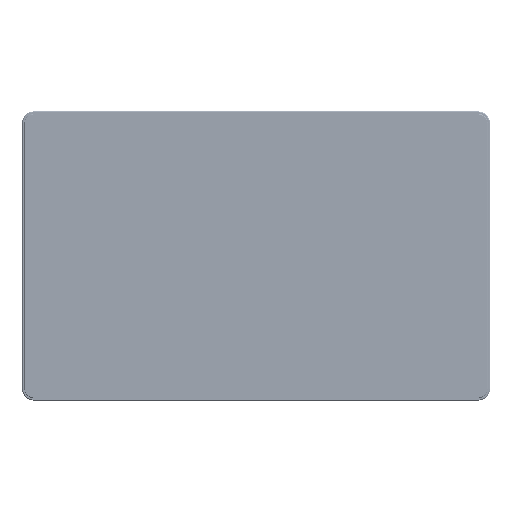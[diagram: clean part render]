
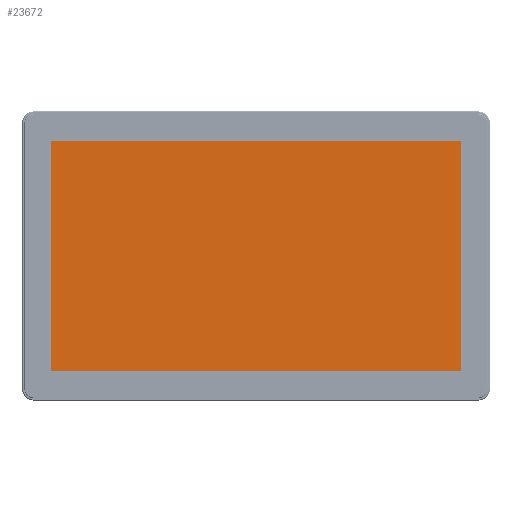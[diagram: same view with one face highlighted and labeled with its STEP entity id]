
A CAD part, top view. The second image highlights one B-rep face of the part: STEP entity #23672.
In plain terms, the highlighted planar face has unit normal (0, 0, 1).
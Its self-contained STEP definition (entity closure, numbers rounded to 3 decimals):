
#14258 = EDGE_LOOP ( 'NONE', ( #178031, #46042, #30521, #214051 ) ) ;
#18227 = VERTEX_POINT ( 'NONE', #79732 ) ;
#20347 = EDGE_CURVE ( 'NONE', #196210, #160177, #244929, .T. ) ;
#23672 = ADVANCED_FACE ( 'NONE', ( #45204 ), #27361, .F. ) ;
#26016 = DIRECTION ( 'NONE',  ( -1., 0., 0. ) ) ;
#27361 = PLANE ( 'NONE',  #209719 ) ;
#30521 = ORIENTED_EDGE ( 'NONE', *, *, #31604, .T. ) ;
#31604 = EDGE_CURVE ( 'NONE', #18227, #230383, #218817, .T. ) ;
#44580 = VECTOR ( 'NONE', #212591, 1000. ) ;
#45204 = FACE_OUTER_BOUND ( 'NONE', #14258, .T. ) ;
#46042 = ORIENTED_EDGE ( 'NONE', *, *, #132831, .T. ) ;
#47483 = CARTESIAN_POINT ( 'NONE',  ( 172.615, -97.27, 0. ) ) ;
#65806 = CARTESIAN_POINT ( 'NONE',  ( -187.5, -112., 0. ) ) ;
#70999 = DIRECTION ( 'NONE',  ( -1., 0., 0. ) ) ;
#79732 = CARTESIAN_POINT ( 'NONE',  ( 172.615, 97.27, 0. ) ) ;
#107700 = CARTESIAN_POINT ( 'NONE',  ( -172.615, -97.27, 0. ) ) ;
#132831 = EDGE_CURVE ( 'NONE', #160177, #18227, #209889, .T. ) ;
#137286 = CARTESIAN_POINT ( 'NONE',  ( -172.615, -97.27, 0. ) ) ;
#142282 = CARTESIAN_POINT ( 'NONE',  ( -172.615, -97.27, 0. ) ) ;
#150962 = CARTESIAN_POINT ( 'NONE',  ( 172.615, -97.27, 0. ) ) ;
#160177 = VERTEX_POINT ( 'NONE', #47483 ) ;
#178031 = ORIENTED_EDGE ( 'NONE', *, *, #20347, .T. ) ;
#182246 = VECTOR ( 'NONE', #229560, 1000. ) ;
#185824 = EDGE_CURVE ( 'NONE', #230383, #196210, #250048, .T. ) ;
#187968 = CARTESIAN_POINT ( 'NONE',  ( -172.615, 97.27, 0. ) ) ;
#196210 = VERTEX_POINT ( 'NONE', #137286 ) ;
#209719 = AXIS2_PLACEMENT_3D ( 'NONE', #65806, #210948, #26016 ) ;
#209889 = LINE ( 'NONE', #150962, #44580 ) ;
#210948 = DIRECTION ( 'NONE',  ( 0., 0., -1. ) ) ;
#212591 = DIRECTION ( 'NONE',  ( 0., 1., 0. ) ) ;
#214051 = ORIENTED_EDGE ( 'NONE', *, *, #185824, .T. ) ;
#217172 = VECTOR ( 'NONE', #70999, 1000. ) ;
#218817 = LINE ( 'NONE', #254425, #217172 ) ;
#219571 = VECTOR ( 'NONE', #221752, 1000. ) ;
#221752 = DIRECTION ( 'NONE',  ( 1., 0., 0. ) ) ;
#229560 = DIRECTION ( 'NONE',  ( 0., -1., 0. ) ) ;
#230383 = VERTEX_POINT ( 'NONE', #187968 ) ;
#244929 = LINE ( 'NONE', #142282, #219571 ) ;
#250048 = LINE ( 'NONE', #107700, #182246 ) ;
#254425 = CARTESIAN_POINT ( 'NONE',  ( -172.615, 97.27, 0. ) ) ;
